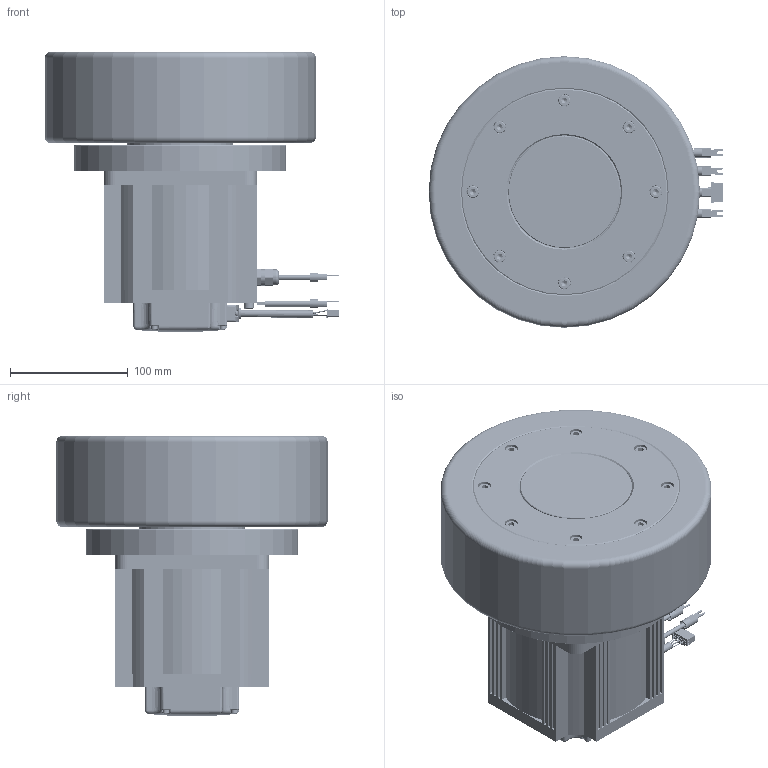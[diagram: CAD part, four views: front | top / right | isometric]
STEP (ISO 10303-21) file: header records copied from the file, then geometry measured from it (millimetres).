
FILE_DESCRIPTION((''),'2;1');
FILE_NAME('ASM0008_ASM','2025-03-13T11:00:25',('ms15079'),(''),'CREO PARAMETRIC BY PTC INC, 2018100','CREO PARAMETRIC BY PTC INC, 2018100','');
FILE_SCHEMA(('CONFIG_CONTROL_DESIGN'));
Length unit declared in the file: millimetre
Products named in the file (46): 4619121305633-1-SOLID1_1_2_1; M10_MM-8-20-3-SOLI0003_1; _10-SOLID100_1; _1-SOLID2_1_200_1; M10_MM-8-20-1-SOLI0003_1; M5-5-SOLID1_1_1; _1-SOLID1_1_200_1-16888; M5-1-SOLID1_1_2_1; M5-4-SOLID1_1_1; 4294404003789_A0-3-SOLID1_1_1; NONE-23980_1; _8-SOLID1_100_1; _9-SOLID1_100_1; M5-9-SOLID1_1; M5-8-SOLID1_1; 4219122001295-1-SOLID1_1; M5-7-SOLID1_1; DEEP_GROOVE_BALL_BEARINGS_GB__1; _1-SOLID1_1_20_1; M10_MM-8-20-2-SOLI0003_1; _7-SOLID1_1_200_1; M10_MM-8-20-1-SOLI0004_1; _1-SOLID1_1_200_1-37929; M5-3-SOLID1_1_1; _1-SOLID1_1_200_1-43436; M5-6-SOLID1_1_1; M10_MM-8-20-2-SOLI0004_1; 5016461600-1-SOLID1_1_2_1; 4294404003789_A0-1-SOLID1_1; M5-2-SOLID1_1_1; 4294404003789_A0-2-SOLID1_1_1; _1-SOLID1_1_20005_1; 4294404003789_A0-4-SOLID1_1_1; NONE-64015_1; _1-SOLID1_1_200_1-63293; 3698154000285__20001_1; M10_MM-8-20-3-SOLI0004_1; 4611170005762_A0_1_ASM_1_ASM; 4611170005762_A0_ASM_1_ASM; SINGLE_COIL_LOCK_WASHERS_LIGH_3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
Assembly tree (59 placements, depth 4):
  ASM0008_ASM
    4611170005762_A0_ASM_1_ASM
      4611170005762_A0_1_ASM_1_ASM
        4619121305633-1-SOLID1_1_2_1
        M10_MM-8-20-3-SOLI0003_1
        _10-SOLID100_1
        _1-SOLID2_1_200_1
        M10_MM-8-20-1-SOLI0003_1
        M5-5-SOLID1_1_1
        _1-SOLID1_1_200_1-16888
        M5-1-SOLID1_1_2_1
        M5-4-SOLID1_1_1
        4294404003789_A0-3-SOLID1_1_1
        NONE-23980_1
        _8-SOLID1_100_1
        _9-SOLID1_100_1
        M5-9-SOLID1_1
        M5-8-SOLID1_1
        4219122001295-1-SOLID1_1
        M5-7-SOLID1_1
        DEEP_GROOVE_BALL_BEARINGS_GB__1
        _1-SOLID1_1_20_1
        M10_MM-8-20-2-SOLI0003_1
        _7-SOLID1_1_200_1
        M10_MM-8-20-1-SOLI0004_1
        _1-SOLID1_1_200_1-37929
        M5-3-SOLID1_1_1
        _1-SOLID1_1_200_1-43436
        M5-6-SOLID1_1_1
        M10_MM-8-20-2-SOLI0004_1
        5016461600-1-SOLID1_1_2_1
        4294404003789_A0-1-SOLID1_1
        M5-2-SOLID1_1_1
        4294404003789_A0-2-SOLID1_1_1
        _1-SOLID1_1_20005_1
        4294404003789_A0-4-SOLID1_1_1
        NONE-64015_1
        _1-SOLID1_1_200_1-63293
        3698154000285__20001_1
        M10_MM-8-20-3-SOLI0004_1
    AEQ-145N-020-15-22-1-H77-W230_ASM
      AEQ-145-L2-15-22-1-H77-W230_ASM
        SINGLE_COIL_LOCK_WASHERS_LIGH_3  x8
        AEQ-145N-032-15-22-1_X2_6A215_1
        HEXAGON_SOCKET_HEAD_CAP_SCREW_2  x8
        AEQ-145-H77-W230
Bounding box: 249.83 x 230 x 237.3 mm (x, y, z)
Volume: 4374887.2 mm3; surface area: 610382.2 mm2
Topology: 55 solids, 57 shells, 4348 faces, 10233 edges, 6025 vertices
Faces by surface type: cone 1399, plane 1354, cylinder 1248, torus 247, bspline 50, sphere 36, extrusion 14
Entity records: 85673 total; most frequent: CARTESIAN_POINT 21788, DIRECTION 13506, ORIENTED_EDGE 13010, EDGE_CURVE 6505, AXIS2_PLACEMENT_3D 4998, VERTEX_POINT 4142, VECTOR 3510, LINE 3496
